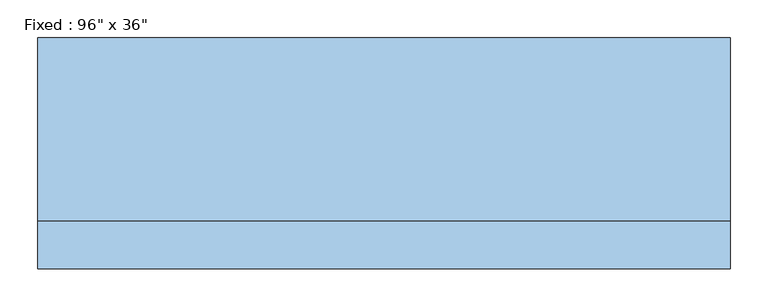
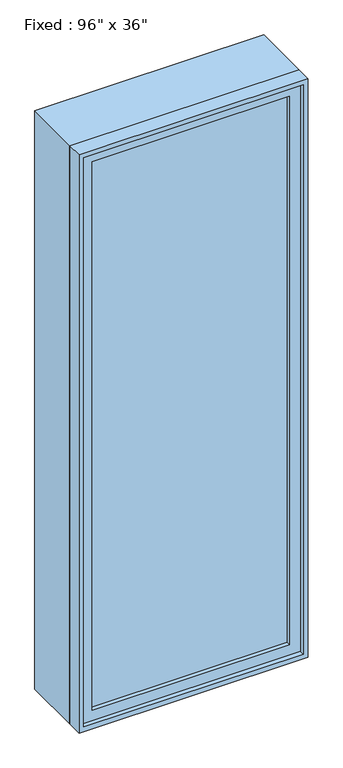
"""IFC4 building model written with IfcOpenShell, lengths in millimetres: window geometry."""

from ifc_helpers import new_model, si_unit, frame, origin, place, context, project, spatial, polyline, outline, extrude, source, transform, mapped, element, save


def window_9a11fba4(model_context):
    return source(origin(), model_context, "Body", "SweptSolid", [
        extrude(outline(polyline([(355.6, -104.775), (355.6, -117.475), (-431.8, -117.475), (-431.8, -104.775), (355.6, -104.775)])), frame((0.0, 0.0, 977.9), z_axis=(0.0, 0.0, 1.0), x_axis=(1.0, 0.0, 0.0)), (0.0, 0.0, 1.0), 2311.4),
        extrude(outline(polyline([(3333.75, -476.25), (933.45, -476.25), (933.45, 400.05), (3333.75, 400.05), (3333.75, -476.25)]), holes=[polyline([(3289.3, -431.8), (3289.3, 355.6), (977.9, 355.6), (977.9, -431.8), (3289.3, -431.8)])]), frame((0.0, -133.35, 0.0), z_axis=(0.0, 1.0, 0.0), x_axis=(0.0, 0.0, 1.0)), (0.0, 0.0, 1.0), 44.45),
        extrude(outline(polyline([(3352.8, -495.3), (914.4, -495.3), (914.4, 419.1), (3352.8, 419.1), (3352.8, -495.3)]), holes=[polyline([(3321.05, -463.55), (3321.05, 387.35), (946.15, 387.35), (946.15, -463.55), (3321.05, -463.55)])]), frame((0.0, -88.9, 0.0), z_axis=(0.0, 1.0, 0.0), x_axis=(0.0, 0.0, 1.0)), (0.0, 0.0, 1.0), 241.3),
        extrude(outline(polyline([(3352.8, 419.1), (3352.8, -495.3), (914.4, -495.3), (914.4, 419.1), (3352.8, 419.1)]), holes=[polyline([(3333.75, 400.05), (933.45, 400.05), (933.45, -476.25), (3333.75, -476.25), (3333.75, 400.05)])]), frame((0.0, -152.4, 0.0), z_axis=(0.0, 1.0, 0.0), x_axis=(0.0, 0.0, 1.0)), (0.0, 0.0, 1.0), 63.5),
    ])


if __name__ == "__main__":
    model = new_model("IFC4")
    model_context = context("Model", 3, world=origin())
    ifc_project = project(units=[si_unit("LENGTHUNIT", "METRE", prefix="MILLI")], contexts=[model_context])
    site = spatial("IfcSite", under=ifc_project)
    building = spatial("IfcBuilding", under=site)
    placement = place(None, origin())
    window_shape = window_9a11fba4(model_context)
    element("IfcWindow", 1, ObjectType="Fixed : 96\" x 36\"", at=placement, inside=building, context=model_context, shape_type="MappedRepresentation", body=[
        mapped(window_shape, transform((0.0, 0.0, 0.0), x_axis=(1.0, 0.0, 0.0), y_axis=(0.0, 1.0, 0.0), z_axis=(0.0, 0.0, 1.0))),
    ])
    save(model, "model.ifc")
